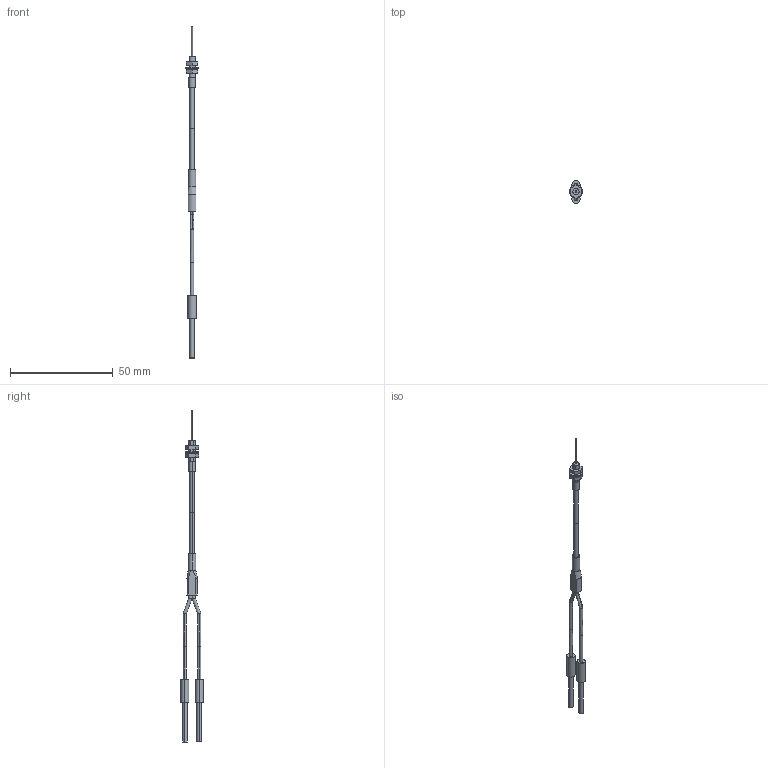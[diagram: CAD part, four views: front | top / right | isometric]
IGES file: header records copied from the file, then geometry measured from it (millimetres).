
Start section: SolidWorks IGES FILE using analytic representation for surfaces
Global section: file name: C:\Documents and Settings\yk0651\デスクトップ\3D_catalog_050904\0_IGES\FD-EN500S1.IGS; native system: SolidWorks 2004 by SolidWorks Corporation; preprocessor: Version 5.3; author: yk0651; date: 050904.182451; units: millimetre
Bounding box: 6.5 x 11 x 161.5 mm (x, y, z)
Volume: 1200.4 mm3; surface area: 2017.8 mm2
Topology: 9 solids, 9 shells, 94 faces, 190 edges, 124 vertices
Faces by surface type: revolution 51, plane 43
